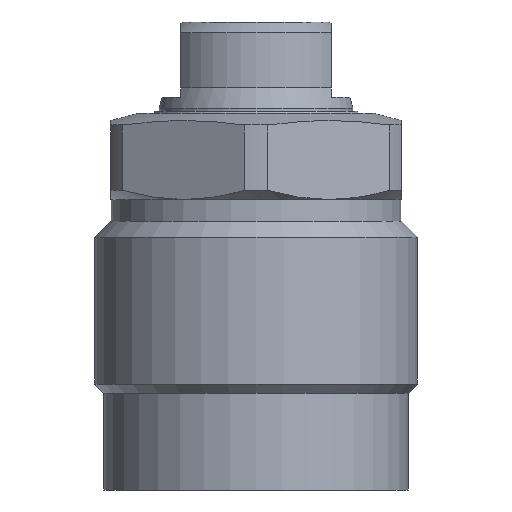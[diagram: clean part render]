
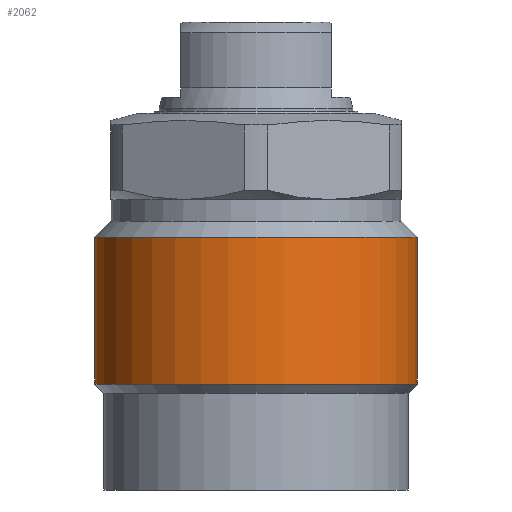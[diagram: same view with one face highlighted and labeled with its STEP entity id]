
A CAD part, front view. The second image highlights one B-rep face of the part: STEP entity #2062.
In plain terms, the highlighted cylindrical face has radius 15 mm (diameter 30 mm), a partial arc.
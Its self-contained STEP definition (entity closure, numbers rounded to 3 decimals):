
#1999=CARTESIAN_POINT('',(-15.0,0.0,-25.15));
#2000=VERTEX_POINT('',#1999);
#2008=CARTESIAN_POINT('',(15.0,0.0,-25.15));
#2009=VERTEX_POINT('',#2008);
#2016=CARTESIAN_POINT('',(0.0,0.0,-25.15));
#2017=DIRECTION('',(0.0,0.0,1.0));
#2018=DIRECTION('',(1.0,0.0,0.0));
#2019=AXIS2_PLACEMENT_3D('',#2016,#2017,#2018);
#2020=CIRCLE('',#2019,15.0);
#2021=EDGE_CURVE('no 2667',#2000,#2009,#2020,.T.);
#2031=CARTESIAN_POINT('',(-15.0,0.0,-11.5));
#2032=VERTEX_POINT('',#2031);
#2033=CARTESIAN_POINT('',(-15.0,0.0,-25.15));
#2034=DIRECTION('',(-0.0,-0.0,1.0));
#2035=VECTOR('',#2034,1.0);
#2036=LINE('',#2033,#2035);
#2037=EDGE_CURVE('no 2677',#2000,#2032,#2036,.T.);
#2038=ORIENTED_EDGE('',*,*,#2037,.F.);
#2039=ORIENTED_EDGE('',*,*,#2021,.T.);
#2040=CARTESIAN_POINT('',(15.0,0.0,-11.5));
#2041=VERTEX_POINT('',#2040);
#2042=CARTESIAN_POINT('',(15.0,0.0,-25.15));
#2043=DIRECTION('',(0.0,0.0,1.0));
#2044=VECTOR('',#2043,1.0);
#2045=LINE('',#2042,#2044);
#2046=EDGE_CURVE('no 2685',#2009,#2041,#2045,.T.);
#2047=ORIENTED_EDGE('',*,*,#2046,.T.);
#2048=CARTESIAN_POINT('',(0.0,0.0,-11.5));
#2049=DIRECTION('',(0.0,0.0,1.0));
#2050=DIRECTION('',(1.0,0.0,0.0));
#2051=AXIS2_PLACEMENT_3D('',#2048,#2049,#2050);
#2052=CIRCLE('',#2051,15.0);
#2053=EDGE_CURVE('no 2689',#2032,#2041,#2052,.T.);
#2054=ORIENTED_EDGE('',*,*,#2053,.F.);
#2055=EDGE_LOOP('',(#2038,#2039,#2047,#2054));
#2056=FACE_OUTER_BOUND('',#2055,.T.);
#2057=CARTESIAN_POINT('',(0.0,0.0,3.903));
#2058=DIRECTION('',(0.0,0.0,1.0));
#2059=DIRECTION('',(0.0,1.0,0.0));
#2060=AXIS2_PLACEMENT_3D('',#2057,#2058,#2059);
#2061=CYLINDRICAL_SURFACE('',#2060,15.0);
#2062=ADVANCED_FACE('no 2670',(#2056),#2061,.T.);
